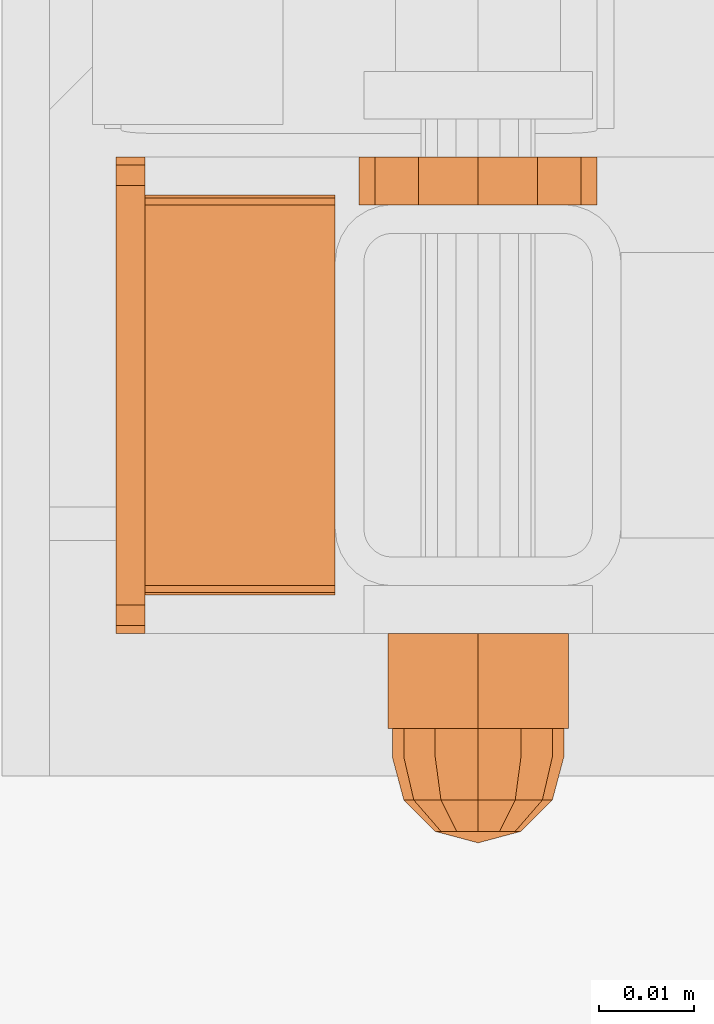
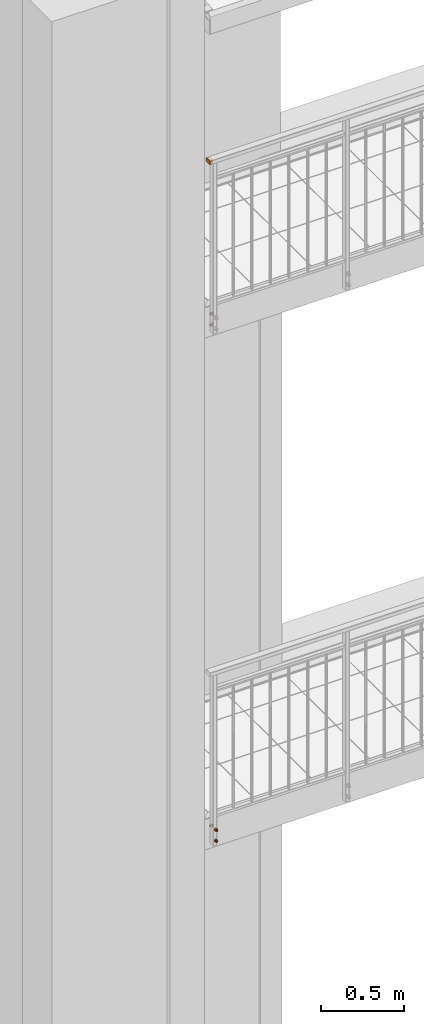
# One storey, part 103 of 162: 6 proxies.
"""IFC2X3 building model written with IfcOpenShell, lengths in millimetres."""

from ifc_helpers import new_model, entity, si_unit, converted_unit, origin_with_axes, place, context, project, spatial, faceted_brep, material, element, save


model = new_model("IFC2X3")

# Units and contexts
model_context = context("Model", 3, precision=1e-09, world=origin_with_axes())
ifc_project = project(units=[si_unit("LENGTHUNIT", "METRE", prefix="MILLI"), si_unit("AREAUNIT", "SQUARE_METRE"), si_unit("VOLUMEUNIT", "CUBIC_METRE"), converted_unit("PLANEANGLEUNIT", "DEGREE", entity("IfcPlaneAngleMeasure", 0.01745329), si_unit("PLANEANGLEUNIT", "RADIAN"), dimensions=[0, 0, 0, 0, 0, 0, 0])], contexts=[model_context])

# Site, building, storey
site_placement = place(None, origin_with_axes())
site = spatial("IfcSite", under=ifc_project, at=site_placement, Name="Hermannstra?e 1a, 60318 Frankfurt", CompositionType="ELEMENT")
building_placement = place(site_placement, origin_with_axes())
building = spatial("IfcBuilding", under=site, at=building_placement, Name="Struktur 1", CompositionType="ELEMENT")
storey_placement = place(building_placement, origin_with_axes())
storey = spatial("IfcBuildingStorey", under=building, at=storey_placement, Name="Default Storey", CompositionType="ELEMENT", Elevation=0.0)

# Proxies
ifc_material = material(Name="Kein")
proxy_1_placement = place(None, origin_with_axes())
element("IfcBuildingElementProxy", 1, at=proxy_1_placement, inside=storey, material=ifc_material, ObjectType="-", context=model_context, shape_type="Brep", body=[
    faceted_brep([(2592.484047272, 1535.609373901, 11413.749), (2597.05936482, 1535.609373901, 11409.173682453), (2603.30936482, 1535.609373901, 11407.499), (2609.55936482, 1535.609373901, 11409.173682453), (2614.134682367, 1535.609373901, 11413.749), (2615.80936482, 1535.609373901, 11419.999), (2614.134682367, 1535.609373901, 11426.249), (2609.55936482, 1535.609373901, 11430.824317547), (2603.30936482, 1535.609373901, 11432.499), (2597.05936482, 1535.609373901, 11430.824317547), (2592.484047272, 1535.609373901, 11426.249), (2590.80936482, 1535.609373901, 11419.999), (2603.30936482, 1535.609373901, 11413.999), (2600.30936482, 1535.609373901, 11414.802847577), (2598.113212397, 1535.609373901, 11416.999), (2597.30936482, 1535.609373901, 11419.999), (2598.113212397, 1535.609373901, 11422.999), (2600.30936482, 1535.609373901, 11425.195152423), (2603.30936482, 1535.609373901, 11425.999), (2606.30936482, 1535.609373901, 11425.195152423), (2608.505517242, 1535.609373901, 11422.999), (2609.30936482, 1535.609373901, 11419.999), (2608.505517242, 1535.609373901, 11416.999), (2606.30936482, 1535.609373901, 11414.802847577), (2592.484047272, 1540.609373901, 11413.749), (2597.05936482, 1540.609373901, 11409.173682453), (2590.80936482, 1540.609373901, 11419.999), (2592.484047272, 1540.609373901, 11426.249), (2597.05936482, 1540.609373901, 11430.824317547), (2603.30936482, 1540.609373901, 11432.499), (2609.55936482, 1540.609373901, 11430.824317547), (2614.134682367, 1540.609373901, 11426.249), (2615.80936482, 1540.609373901, 11419.999), (2614.134682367, 1540.609373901, 11413.749), (2609.55936482, 1540.609373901, 11409.173682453), (2603.30936482, 1540.609373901, 11407.499), (2598.113212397, 1540.609373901, 11422.999), (2597.30936482, 1540.609373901, 11419.999), (2598.113212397, 1540.609373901, 11416.999), (2600.30936482, 1540.609373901, 11414.802847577), (2603.30936482, 1540.609373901, 11413.999), (2606.30936482, 1540.609373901, 11414.802847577), (2608.505517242, 1540.609373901, 11416.999), (2609.30936482, 1540.609373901, 11419.999), (2608.505517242, 1540.609373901, 11422.999), (2606.30936482, 1540.609373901, 11425.195152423), (2603.30936482, 1540.609373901, 11425.999), (2600.30936482, 1540.609373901, 11425.195152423)], [[[0, 1, 2, 3, 4, 5, 6, 7, 8, 9, 10, 11], [12, 13, 14, 15, 16, 17, 18, 19, 20, 21, 22, 23]], [[0, 24, 25, 1]], [[24, 26, 27, 28, 29, 30, 31, 32, 33, 34, 35, 25], [36, 37, 38, 39, 40, 41, 42, 43, 44, 45, 46, 47]], [[38, 14, 13, 39]], [[24, 0, 11, 26]], [[14, 38, 37, 15]], [[39, 13, 12, 40]], [[1, 25, 35, 2]], [[26, 11, 10, 27]], [[15, 37, 36, 16]], [[40, 12, 23, 41]], [[2, 35, 34, 3]], [[27, 10, 9, 28]], [[16, 36, 47, 17]], [[22, 42, 41, 23]], [[3, 34, 33, 4]], [[42, 22, 21, 43]], [[28, 9, 8, 29]], [[17, 47, 46, 18]], [[20, 44, 43, 21]], [[4, 33, 32, 5]], [[45, 19, 18, 46]], [[44, 20, 19, 45]], [[29, 8, 7, 30]], [[5, 32, 31, 6]], [[30, 7, 6, 31]]]),
])
proxy_2_placement = place(None, origin_with_axes())
element("IfcBuildingElementProxy", 2, at=proxy_2_placement, inside=storey, material=ifc_material, ObjectType="-", context=model_context, shape_type="Brep", body=[
    faceted_brep([(2597.30936482, 1490.609373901, 11419.999), (2597.30936482, 1480.609373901, 11419.999), (2598.113212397, 1480.609373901, 11416.999), (2598.113212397, 1490.609373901, 11416.999), (2600.30936482, 1480.609373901, 11414.802847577), (2600.30936482, 1490.609373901, 11414.802847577), (2598.113212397, 1490.609373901, 11422.999), (2598.113212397, 1480.609373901, 11422.999), (2593.829495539, 1490.609373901, 11425.472205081), (2603.30936482, 1490.609373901, 11430.945410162), (2612.7892341, 1490.609373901, 11425.472205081), (2612.7892341, 1490.609373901, 11414.525794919), (2603.30936482, 1490.609373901, 11409.052589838), (2593.829495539, 1490.609373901, 11414.525794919), (2600.30936482, 1490.609373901, 11425.195152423), (2603.30936482, 1490.609373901, 11413.999), (2606.30936482, 1490.609373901, 11414.802847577), (2608.505517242, 1490.609373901, 11416.999), (2609.30936482, 1490.609373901, 11419.999), (2608.505517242, 1490.609373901, 11422.999), (2606.30936482, 1490.609373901, 11425.195152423), (2603.30936482, 1490.609373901, 11425.999), (2603.30936482, 1480.609373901, 11430.945410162), (2593.829495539, 1480.609373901, 11425.472205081), (2593.829495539, 1480.609373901, 11414.525794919), (2603.30936482, 1480.609373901, 11409.052589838), (2612.7892341, 1480.609373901, 11414.525794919), (2612.7892341, 1480.609373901, 11425.472205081), (2600.30936482, 1480.609373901, 11425.195152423), (2603.30936482, 1480.609373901, 11425.999), (2606.30936482, 1480.609373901, 11425.195152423), (2608.505517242, 1480.609373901, 11422.999), (2609.30936482, 1480.609373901, 11419.999), (2608.505517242, 1480.609373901, 11416.999), (2606.30936482, 1480.609373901, 11414.802847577), (2603.30936482, 1480.609373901, 11413.999)], [[[0, 1, 2, 3]], [[3, 2, 4, 5]], [[1, 0, 6, 7]], [[8, 9, 10, 11, 12, 13], [14, 6, 0, 3, 5, 15, 16, 17, 18, 19, 20, 21]], [[22, 23, 24, 25, 26, 27], [1, 7, 28, 29, 30, 31, 32, 33, 34, 35, 4, 2]], [[7, 6, 14, 28]], [[24, 23, 8, 13]], [[5, 4, 35, 15]], [[13, 12, 25, 24]], [[28, 14, 21, 29]], [[23, 22, 9, 8]], [[15, 35, 34, 16]], [[12, 11, 26, 25]], [[29, 21, 20, 30]], [[22, 27, 10, 9]], [[16, 34, 33, 17]], [[27, 26, 11, 10]], [[30, 20, 19, 31]], [[17, 33, 32, 18]], [[31, 19, 18, 32]]]),
    faceted_brep([(2603.30936482, 1480.609373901, 11428.999), (2603.30936482, 1477.609373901, 11428.999), (2607.80936482, 1477.609373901, 11427.793228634), (2607.80936482, 1480.609373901, 11427.793228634), (2598.80936482, 1480.609373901, 11427.793228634), (2598.80936482, 1477.609373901, 11427.793228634), (2595.515136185, 1477.609373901, 11415.499), (2598.80936482, 1477.609373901, 11412.204771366), (2603.30936482, 1477.609373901, 11410.999), (2607.80936482, 1477.609373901, 11412.204771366), (2611.103593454, 1477.609373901, 11415.499), (2612.30936482, 1477.609373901, 11419.999), (2611.103593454, 1477.609373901, 11424.499), (2595.515136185, 1477.609373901, 11424.499), (2594.30936482, 1477.609373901, 11419.999), (2611.103593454, 1480.609373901, 11415.499), (2607.80936482, 1480.609373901, 11412.204771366), (2603.30936482, 1480.609373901, 11410.999), (2598.80936482, 1480.609373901, 11412.204771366), (2595.515136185, 1480.609373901, 11415.499), (2594.30936482, 1480.609373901, 11419.999), (2595.515136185, 1480.609373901, 11424.499), (2611.103593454, 1480.609373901, 11424.499), (2612.30936482, 1480.609373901, 11419.999)], [[[0, 1, 2, 3]], [[1, 0, 4, 5]], [[6, 7, 8, 9, 10, 11, 12, 2, 1, 5, 13, 14]], [[15, 16, 17, 18, 19, 20, 21, 4, 0, 3, 22, 23]], [[3, 2, 12, 22]], [[5, 4, 21, 13]], [[22, 12, 11, 23]], [[13, 21, 20, 14]], [[7, 18, 17, 8]], [[19, 6, 14, 20]], [[18, 7, 6, 19]], [[23, 11, 10, 15]], [[8, 17, 16, 9]], [[15, 10, 9, 16]]]),
    faceted_brep([(2595.515136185, 1477.609373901, 11424.499), (2596.55936482, 1473.109373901, 11423.896114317), (2599.412250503, 1473.109373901, 11426.749), (2598.80936482, 1477.609373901, 11427.793228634), (2611.103593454, 1477.609373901, 11415.499), (2607.80936482, 1477.609373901, 11412.204771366), (2603.30936482, 1477.609373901, 11410.999), (2598.80936482, 1477.609373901, 11412.204771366), (2595.515136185, 1477.609373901, 11415.499), (2594.30936482, 1477.609373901, 11419.999), (2603.30936482, 1477.609373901, 11428.999), (2607.80936482, 1477.609373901, 11427.793228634), (2611.103593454, 1477.609373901, 11424.499), (2612.30936482, 1477.609373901, 11419.999), (2603.30936482, 1473.109373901, 11427.793228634), (2595.515136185, 1473.109373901, 11419.999), (2598.80936482, 1469.815145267, 11419.999), (2599.412250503, 1469.815145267, 11422.249), (2607.206479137, 1473.109373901, 11426.749), (2601.05936482, 1469.815145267, 11423.896114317), (2596.55936482, 1473.109373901, 11416.101885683), (2599.412250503, 1469.815145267, 11417.749), (2603.30936482, 1469.815145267, 11424.499), (2603.30936482, 1468.609373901, 11419.999), (2599.412250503, 1473.109373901, 11413.249), (2601.05936482, 1469.815145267, 11416.101885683), (2603.30936482, 1473.109373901, 11412.204771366), (2610.05936482, 1473.109373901, 11423.896114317), (2605.55936482, 1469.815145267, 11423.896114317), (2603.30936482, 1469.815145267, 11415.499), (2607.206479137, 1473.109373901, 11413.249), (2605.55936482, 1469.815145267, 11416.101885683), (2611.103593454, 1473.109373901, 11419.999), (2607.206479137, 1469.815145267, 11422.249), (2610.05936482, 1473.109373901, 11416.101885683), (2607.206479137, 1469.815145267, 11417.749), (2607.80936482, 1469.815145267, 11419.999)], [[[0, 1, 2, 3]], [[4, 5, 6, 7, 8, 9, 0, 3, 10, 11, 12, 13]], [[3, 2, 14, 10]], [[15, 16, 17, 1]], [[1, 0, 9, 15]], [[10, 14, 18, 11]], [[1, 17, 19, 2]], [[16, 15, 20, 21]], [[2, 19, 22, 14]], [[23, 17, 16]], [[24, 25, 21, 20]], [[23, 16, 21]], [[24, 7, 6, 26]], [[20, 8, 7, 24]], [[15, 9, 8, 20]], [[11, 18, 27, 12]], [[14, 22, 28, 18]], [[23, 19, 17]], [[26, 29, 25, 24]], [[23, 21, 25]], [[23, 22, 19]], [[26, 6, 5, 30]], [[29, 26, 30, 31]], [[23, 25, 29]], [[12, 27, 32, 13]], [[18, 28, 33, 27]], [[23, 28, 22]], [[23, 29, 31]], [[23, 33, 28]], [[30, 5, 4, 34]], [[31, 30, 34, 35]], [[23, 31, 35]], [[13, 32, 34, 4]], [[27, 33, 36, 32]], [[23, 36, 33]], [[23, 35, 36]], [[35, 34, 32, 36]]]),
])
proxy_3_placement = place(None, origin_with_axes())
element("IfcBuildingElementProxy", 3, at=proxy_3_placement, inside=storey, material=ifc_material, ObjectType="-", context=model_context, shape_type="Brep", body=[
    faceted_brep([(2597.30936482, 1490.609373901, 11339.999), (2597.30936482, 1480.609373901, 11339.999), (2598.113212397, 1480.609373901, 11336.999), (2598.113212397, 1490.609373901, 11336.999), (2600.30936482, 1480.609373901, 11334.802847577), (2600.30936482, 1490.609373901, 11334.802847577), (2598.113212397, 1490.609373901, 11342.999), (2598.113212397, 1480.609373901, 11342.999), (2593.829495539, 1490.609373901, 11345.472205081), (2603.30936482, 1490.609373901, 11350.945410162), (2612.7892341, 1490.609373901, 11345.472205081), (2612.7892341, 1490.609373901, 11334.525794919), (2603.30936482, 1490.609373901, 11329.052589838), (2593.829495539, 1490.609373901, 11334.525794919), (2600.30936482, 1490.609373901, 11345.195152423), (2603.30936482, 1490.609373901, 11333.999), (2606.30936482, 1490.609373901, 11334.802847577), (2608.505517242, 1490.609373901, 11336.999), (2609.30936482, 1490.609373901, 11339.999), (2608.505517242, 1490.609373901, 11342.999), (2606.30936482, 1490.609373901, 11345.195152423), (2603.30936482, 1490.609373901, 11345.999), (2603.30936482, 1480.609373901, 11350.945410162), (2593.829495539, 1480.609373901, 11345.472205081), (2593.829495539, 1480.609373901, 11334.525794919), (2603.30936482, 1480.609373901, 11329.052589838), (2612.7892341, 1480.609373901, 11334.525794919), (2612.7892341, 1480.609373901, 11345.472205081), (2600.30936482, 1480.609373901, 11345.195152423), (2603.30936482, 1480.609373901, 11345.999), (2606.30936482, 1480.609373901, 11345.195152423), (2608.505517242, 1480.609373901, 11342.999), (2609.30936482, 1480.609373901, 11339.999), (2608.505517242, 1480.609373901, 11336.999), (2606.30936482, 1480.609373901, 11334.802847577), (2603.30936482, 1480.609373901, 11333.999)], [[[0, 1, 2, 3]], [[3, 2, 4, 5]], [[1, 0, 6, 7]], [[8, 9, 10, 11, 12, 13], [14, 6, 0, 3, 5, 15, 16, 17, 18, 19, 20, 21]], [[22, 23, 24, 25, 26, 27], [1, 7, 28, 29, 30, 31, 32, 33, 34, 35, 4, 2]], [[7, 6, 14, 28]], [[24, 23, 8, 13]], [[5, 4, 35, 15]], [[13, 12, 25, 24]], [[28, 14, 21, 29]], [[23, 22, 9, 8]], [[15, 35, 34, 16]], [[12, 11, 26, 25]], [[29, 21, 20, 30]], [[22, 27, 10, 9]], [[16, 34, 33, 17]], [[27, 26, 11, 10]], [[30, 20, 19, 31]], [[17, 33, 32, 18]], [[31, 19, 18, 32]]]),
    faceted_brep([(2603.30936482, 1480.609373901, 11348.999), (2603.30936482, 1477.609373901, 11348.999), (2607.80936482, 1477.609373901, 11347.793228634), (2607.80936482, 1480.609373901, 11347.793228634), (2598.80936482, 1480.609373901, 11347.793228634), (2598.80936482, 1477.609373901, 11347.793228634), (2595.515136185, 1477.609373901, 11335.499), (2598.80936482, 1477.609373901, 11332.204771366), (2603.30936482, 1477.609373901, 11330.999), (2607.80936482, 1477.609373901, 11332.204771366), (2611.103593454, 1477.609373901, 11335.499), (2612.30936482, 1477.609373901, 11339.999), (2611.103593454, 1477.609373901, 11344.499), (2595.515136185, 1477.609373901, 11344.499), (2594.30936482, 1477.609373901, 11339.999), (2611.103593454, 1480.609373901, 11335.499), (2607.80936482, 1480.609373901, 11332.204771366), (2603.30936482, 1480.609373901, 11330.999), (2598.80936482, 1480.609373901, 11332.204771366), (2595.515136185, 1480.609373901, 11335.499), (2594.30936482, 1480.609373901, 11339.999), (2595.515136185, 1480.609373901, 11344.499), (2611.103593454, 1480.609373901, 11344.499), (2612.30936482, 1480.609373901, 11339.999)], [[[0, 1, 2, 3]], [[1, 0, 4, 5]], [[6, 7, 8, 9, 10, 11, 12, 2, 1, 5, 13, 14]], [[15, 16, 17, 18, 19, 20, 21, 4, 0, 3, 22, 23]], [[3, 2, 12, 22]], [[5, 4, 21, 13]], [[22, 12, 11, 23]], [[13, 21, 20, 14]], [[7, 18, 17, 8]], [[19, 6, 14, 20]], [[18, 7, 6, 19]], [[23, 11, 10, 15]], [[8, 17, 16, 9]], [[15, 10, 9, 16]]]),
    faceted_brep([(2595.515136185, 1477.609373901, 11344.499), (2596.55936482, 1473.109373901, 11343.896114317), (2599.412250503, 1473.109373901, 11346.749), (2598.80936482, 1477.609373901, 11347.793228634), (2611.103593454, 1477.609373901, 11335.499), (2607.80936482, 1477.609373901, 11332.204771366), (2603.30936482, 1477.609373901, 11330.999), (2598.80936482, 1477.609373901, 11332.204771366), (2595.515136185, 1477.609373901, 11335.499), (2594.30936482, 1477.609373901, 11339.999), (2603.30936482, 1477.609373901, 11348.999), (2607.80936482, 1477.609373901, 11347.793228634), (2611.103593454, 1477.609373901, 11344.499), (2612.30936482, 1477.609373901, 11339.999), (2603.30936482, 1473.109373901, 11347.793228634), (2595.515136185, 1473.109373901, 11339.999), (2598.80936482, 1469.815145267, 11339.999), (2599.412250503, 1469.815145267, 11342.249), (2607.206479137, 1473.109373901, 11346.749), (2601.05936482, 1469.815145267, 11343.896114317), (2596.55936482, 1473.109373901, 11336.101885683), (2599.412250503, 1469.815145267, 11337.749), (2603.30936482, 1469.815145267, 11344.499), (2603.30936482, 1468.609373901, 11339.999), (2599.412250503, 1473.109373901, 11333.249), (2601.05936482, 1469.815145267, 11336.101885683), (2603.30936482, 1473.109373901, 11332.204771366), (2610.05936482, 1473.109373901, 11343.896114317), (2605.55936482, 1469.815145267, 11343.896114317), (2603.30936482, 1469.815145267, 11335.499), (2607.206479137, 1473.109373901, 11333.249), (2605.55936482, 1469.815145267, 11336.101885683), (2611.103593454, 1473.109373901, 11339.999), (2607.206479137, 1469.815145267, 11342.249), (2610.05936482, 1473.109373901, 11336.101885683), (2607.206479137, 1469.815145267, 11337.749), (2607.80936482, 1469.815145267, 11339.999)], [[[0, 1, 2, 3]], [[4, 5, 6, 7, 8, 9, 0, 3, 10, 11, 12, 13]], [[3, 2, 14, 10]], [[15, 16, 17, 1]], [[1, 0, 9, 15]], [[10, 14, 18, 11]], [[1, 17, 19, 2]], [[16, 15, 20, 21]], [[2, 19, 22, 14]], [[23, 17, 16]], [[24, 25, 21, 20]], [[23, 16, 21]], [[24, 7, 6, 26]], [[20, 8, 7, 24]], [[15, 9, 8, 20]], [[11, 18, 27, 12]], [[14, 22, 28, 18]], [[23, 19, 17]], [[26, 29, 25, 24]], [[23, 21, 25]], [[23, 22, 19]], [[26, 6, 5, 30]], [[29, 26, 30, 31]], [[23, 25, 29]], [[12, 27, 32, 13]], [[18, 28, 33, 27]], [[23, 28, 22]], [[23, 29, 31]], [[23, 33, 28]], [[30, 5, 4, 34]], [[31, 30, 34, 35]], [[23, 31, 35]], [[13, 32, 34, 4]], [[27, 33, 36, 32]], [[23, 36, 33]], [[23, 35, 36]], [[35, 34, 32, 36]]]),
])
proxy_4_placement = place(None, origin_with_axes())
element("IfcBuildingElementProxy", 4, at=proxy_4_placement, inside=storey, material=ifc_material, ObjectType="-", context=model_context, shape_type="Brep", body=[
    faceted_brep([(2588.31036482, 1494.609373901, 16312.999), (2588.31036482, 1494.609373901, 16330.999), (2568.31036482, 1494.609373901, 16330.999), (2568.31036482, 1494.609373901, 16312.999), (2588.31036482, 1494.877323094, 16331.999), (2568.31036482, 1494.877323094, 16331.999), (2568.31036482, 1495.609373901, 16332.731050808), (2588.31036482, 1495.609373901, 16332.731050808), (2588.31036482, 1496.609373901, 16332.999), (2568.31036482, 1496.609373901, 16332.999), (2568.31036482, 1494.877323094, 16311.999), (2588.31036482, 1494.877323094, 16311.999), (2568.31036482, 1495.609373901, 16311.266949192), (2588.31036482, 1495.609373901, 16311.266949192), (2588.31036482, 1496.609373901, 16310.999), (2588.31036482, 1534.609373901, 16310.999), (2588.31036482, 1535.609373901, 16311.266949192), (2588.31036482, 1536.341424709, 16311.999), (2588.31036482, 1536.609373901, 16312.999), (2588.31036482, 1536.609373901, 16330.999), (2588.31036482, 1536.341424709, 16331.999), (2588.31036482, 1535.609373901, 16332.731050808), (2588.31036482, 1534.609373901, 16332.999), (2588.31036482, 1498.609373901, 16328.999), (2588.31036482, 1532.609373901, 16328.999), (2588.31036482, 1532.609373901, 16314.999), (2588.31036482, 1498.609373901, 16314.999), (2568.31036482, 1534.609373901, 16332.999), (2568.31036482, 1535.609373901, 16332.731050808), (2568.31036482, 1536.341424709, 16331.999), (2568.31036482, 1536.609373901, 16330.999), (2568.31036482, 1536.609373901, 16312.999), (2568.31036482, 1536.341424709, 16311.999), (2568.31036482, 1535.609373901, 16311.266949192), (2568.31036482, 1534.609373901, 16310.999), (2568.31036482, 1496.609373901, 16310.999), (2568.31036482, 1498.609373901, 16328.999), (2568.31036482, 1498.609373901, 16314.999), (2568.31036482, 1532.609373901, 16314.999), (2568.31036482, 1532.609373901, 16328.999)], [[[0, 1, 2, 3]], [[2, 1, 4, 5]], [[6, 7, 8, 9]], [[5, 4, 7, 6]], [[0, 3, 10, 11]], [[11, 10, 12, 13]], [[7, 4, 1, 0, 11, 13, 14, 15, 16, 17, 18, 19, 20, 21, 22, 8], [23, 24, 25, 26]], [[3, 2, 5, 6, 9, 27, 28, 29, 30, 31, 32, 33, 34, 35, 12, 10], [36, 37, 38, 39]], [[21, 28, 27, 22]], [[8, 22, 27, 9]], [[37, 36, 23, 26]], [[28, 21, 20, 29]], [[13, 12, 35, 14]], [[26, 25, 38, 37]], [[15, 14, 35, 34]], [[15, 34, 33, 16]], [[36, 39, 24, 23]], [[29, 20, 19, 30]], [[16, 33, 32, 17]], [[25, 24, 39, 38]], [[19, 18, 31, 30]], [[17, 32, 31, 18]]]),
    faceted_brep([(2565.31036482, 1496.609373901, 16306.999), (2568.31036482, 1496.609373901, 16306.999), (2568.31036482, 1493.609373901, 16307.802847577), (2565.31036482, 1493.609373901, 16307.802847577), (2568.31036482, 1491.413221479, 16309.999), (2565.31036482, 1491.413221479, 16309.999), (2568.31036482, 1534.609373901, 16306.999), (2565.31036482, 1534.609373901, 16306.999), (2565.31036482, 1537.609373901, 16307.802847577), (2568.31036482, 1537.609373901, 16307.802847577), (2565.31036482, 1539.805526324, 16309.999), (2568.31036482, 1539.805526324, 16309.999), (2568.31036482, 1490.609373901, 16312.999), (2568.31036482, 1540.609373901, 16312.999), (2568.31036482, 1540.609373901, 16330.999), (2568.31036482, 1539.805526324, 16333.999), (2568.31036482, 1537.609373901, 16336.195152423), (2568.31036482, 1534.609373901, 16336.999), (2568.31036482, 1496.609373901, 16336.999), (2568.31036482, 1493.609373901, 16336.195152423), (2568.31036482, 1491.413221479, 16333.999), (2568.31036482, 1490.609373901, 16330.999), (2565.31036482, 1540.609373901, 16312.999), (2565.31036482, 1490.609373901, 16312.999), (2565.31036482, 1490.609373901, 16330.999), (2565.31036482, 1491.413221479, 16333.999), (2565.31036482, 1493.609373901, 16336.195152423), (2565.31036482, 1496.609373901, 16336.999), (2565.31036482, 1534.609373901, 16336.999), (2565.31036482, 1537.609373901, 16336.195152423), (2565.31036482, 1539.805526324, 16333.999), (2565.31036482, 1540.609373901, 16330.999)], [[[0, 1, 2, 3]], [[3, 2, 4, 5]], [[6, 7, 8, 9]], [[9, 8, 10, 11]], [[12, 4, 2, 1, 6, 9, 11, 13, 14, 15, 16, 17, 18, 19, 20, 21]], [[0, 7, 6, 1]], [[22, 10, 8, 7, 0, 3, 5, 23, 24, 25, 26, 27, 28, 29, 30, 31]], [[5, 4, 12, 23]], [[12, 21, 24, 23]], [[11, 10, 22, 13]], [[19, 26, 25, 20]], [[20, 25, 24, 21]], [[26, 19, 18, 27]], [[22, 31, 14, 13]], [[18, 17, 28, 27]], [[14, 31, 30, 15]], [[16, 29, 28, 17]], [[15, 30, 29, 16]]]),
])
proxy_5_placement = place(None, origin_with_axes())
element("IfcBuildingElementProxy", 5, at=proxy_5_placement, inside=storey, material=ifc_material, ObjectType="-", context=model_context, shape_type="Brep", body=[
    faceted_brep([(2592.484047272, 1535.609373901, 15090.749), (2597.05936482, 1535.609373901, 15086.173682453), (2603.30936482, 1535.609373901, 15084.499), (2609.55936482, 1535.609373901, 15086.173682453), (2614.134682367, 1535.609373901, 15090.749), (2615.80936482, 1535.609373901, 15096.999), (2614.134682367, 1535.609373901, 15103.249), (2609.55936482, 1535.609373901, 15107.824317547), (2603.30936482, 1535.609373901, 15109.499), (2597.05936482, 1535.609373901, 15107.824317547), (2592.484047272, 1535.609373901, 15103.249), (2590.80936482, 1535.609373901, 15096.999), (2603.30936482, 1535.609373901, 15090.999), (2600.30936482, 1535.609373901, 15091.802847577), (2598.113212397, 1535.609373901, 15093.999), (2597.30936482, 1535.609373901, 15096.999), (2598.113212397, 1535.609373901, 15099.999), (2600.30936482, 1535.609373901, 15102.195152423), (2603.30936482, 1535.609373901, 15102.999), (2606.30936482, 1535.609373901, 15102.195152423), (2608.505517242, 1535.609373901, 15099.999), (2609.30936482, 1535.609373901, 15096.999), (2608.505517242, 1535.609373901, 15093.999), (2606.30936482, 1535.609373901, 15091.802847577), (2592.484047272, 1540.609373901, 15090.749), (2597.05936482, 1540.609373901, 15086.173682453), (2590.80936482, 1540.609373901, 15096.999), (2592.484047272, 1540.609373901, 15103.249), (2597.05936482, 1540.609373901, 15107.824317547), (2603.30936482, 1540.609373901, 15109.499), (2609.55936482, 1540.609373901, 15107.824317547), (2614.134682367, 1540.609373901, 15103.249), (2615.80936482, 1540.609373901, 15096.999), (2614.134682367, 1540.609373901, 15090.749), (2609.55936482, 1540.609373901, 15086.173682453), (2603.30936482, 1540.609373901, 15084.499), (2598.113212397, 1540.609373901, 15099.999), (2597.30936482, 1540.609373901, 15096.999), (2598.113212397, 1540.609373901, 15093.999), (2600.30936482, 1540.609373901, 15091.802847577), (2603.30936482, 1540.609373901, 15090.999), (2606.30936482, 1540.609373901, 15091.802847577), (2608.505517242, 1540.609373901, 15093.999), (2609.30936482, 1540.609373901, 15096.999), (2608.505517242, 1540.609373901, 15099.999), (2606.30936482, 1540.609373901, 15102.195152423), (2603.30936482, 1540.609373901, 15102.999), (2600.30936482, 1540.609373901, 15102.195152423)], [[[0, 1, 2, 3, 4, 5, 6, 7, 8, 9, 10, 11], [12, 13, 14, 15, 16, 17, 18, 19, 20, 21, 22, 23]], [[0, 24, 25, 1]], [[24, 26, 27, 28, 29, 30, 31, 32, 33, 34, 35, 25], [36, 37, 38, 39, 40, 41, 42, 43, 44, 45, 46, 47]], [[38, 14, 13, 39]], [[24, 0, 11, 26]], [[14, 38, 37, 15]], [[39, 13, 12, 40]], [[1, 25, 35, 2]], [[26, 11, 10, 27]], [[15, 37, 36, 16]], [[40, 12, 23, 41]], [[2, 35, 34, 3]], [[27, 10, 9, 28]], [[16, 36, 47, 17]], [[22, 42, 41, 23]], [[3, 34, 33, 4]], [[42, 22, 21, 43]], [[28, 9, 8, 29]], [[17, 47, 46, 18]], [[20, 44, 43, 21]], [[4, 33, 32, 5]], [[45, 19, 18, 46]], [[44, 20, 19, 45]], [[29, 8, 7, 30]], [[5, 32, 31, 6]], [[30, 7, 6, 31]]]),
])
proxy_6_placement = place(None, origin_with_axes())
element("IfcBuildingElementProxy", 6, at=proxy_6_placement, inside=storey, material=ifc_material, ObjectType="-", context=model_context, shape_type="Brep", body=[
    faceted_brep([(2592.484047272, 1535.609373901, 15170.749), (2597.05936482, 1535.609373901, 15166.173682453), (2603.30936482, 1535.609373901, 15164.499), (2609.55936482, 1535.609373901, 15166.173682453), (2614.134682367, 1535.609373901, 15170.749), (2615.80936482, 1535.609373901, 15176.999), (2614.134682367, 1535.609373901, 15183.249), (2609.55936482, 1535.609373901, 15187.824317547), (2603.30936482, 1535.609373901, 15189.499), (2597.05936482, 1535.609373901, 15187.824317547), (2592.484047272, 1535.609373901, 15183.249), (2590.80936482, 1535.609373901, 15176.999), (2603.30936482, 1535.609373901, 15170.999), (2600.30936482, 1535.609373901, 15171.802847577), (2598.113212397, 1535.609373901, 15173.999), (2597.30936482, 1535.609373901, 15176.999), (2598.113212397, 1535.609373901, 15179.999), (2600.30936482, 1535.609373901, 15182.195152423), (2603.30936482, 1535.609373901, 15182.999), (2606.30936482, 1535.609373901, 15182.195152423), (2608.505517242, 1535.609373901, 15179.999), (2609.30936482, 1535.609373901, 15176.999), (2608.505517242, 1535.609373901, 15173.999), (2606.30936482, 1535.609373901, 15171.802847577), (2592.484047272, 1540.609373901, 15170.749), (2597.05936482, 1540.609373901, 15166.173682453), (2590.80936482, 1540.609373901, 15176.999), (2592.484047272, 1540.609373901, 15183.249), (2597.05936482, 1540.609373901, 15187.824317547), (2603.30936482, 1540.609373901, 15189.499), (2609.55936482, 1540.609373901, 15187.824317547), (2614.134682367, 1540.609373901, 15183.249), (2615.80936482, 1540.609373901, 15176.999), (2614.134682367, 1540.609373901, 15170.749), (2609.55936482, 1540.609373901, 15166.173682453), (2603.30936482, 1540.609373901, 15164.499), (2598.113212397, 1540.609373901, 15179.999), (2597.30936482, 1540.609373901, 15176.999), (2598.113212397, 1540.609373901, 15173.999), (2600.30936482, 1540.609373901, 15171.802847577), (2603.30936482, 1540.609373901, 15170.999), (2606.30936482, 1540.609373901, 15171.802847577), (2608.505517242, 1540.609373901, 15173.999), (2609.30936482, 1540.609373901, 15176.999), (2608.505517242, 1540.609373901, 15179.999), (2606.30936482, 1540.609373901, 15182.195152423), (2603.30936482, 1540.609373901, 15182.999), (2600.30936482, 1540.609373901, 15182.195152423)], [[[0, 1, 2, 3, 4, 5, 6, 7, 8, 9, 10, 11], [12, 13, 14, 15, 16, 17, 18, 19, 20, 21, 22, 23]], [[0, 24, 25, 1]], [[24, 26, 27, 28, 29, 30, 31, 32, 33, 34, 35, 25], [36, 37, 38, 39, 40, 41, 42, 43, 44, 45, 46, 47]], [[38, 14, 13, 39]], [[24, 0, 11, 26]], [[14, 38, 37, 15]], [[39, 13, 12, 40]], [[1, 25, 35, 2]], [[26, 11, 10, 27]], [[15, 37, 36, 16]], [[40, 12, 23, 41]], [[2, 35, 34, 3]], [[27, 10, 9, 28]], [[16, 36, 47, 17]], [[22, 42, 41, 23]], [[3, 34, 33, 4]], [[42, 22, 21, 43]], [[28, 9, 8, 29]], [[17, 47, 46, 18]], [[20, 44, 43, 21]], [[4, 33, 32, 5]], [[45, 19, 18, 46]], [[44, 20, 19, 45]], [[29, 8, 7, 30]], [[5, 32, 31, 6]], [[30, 7, 6, 31]]]),
])

save(model, "model.ifc")
